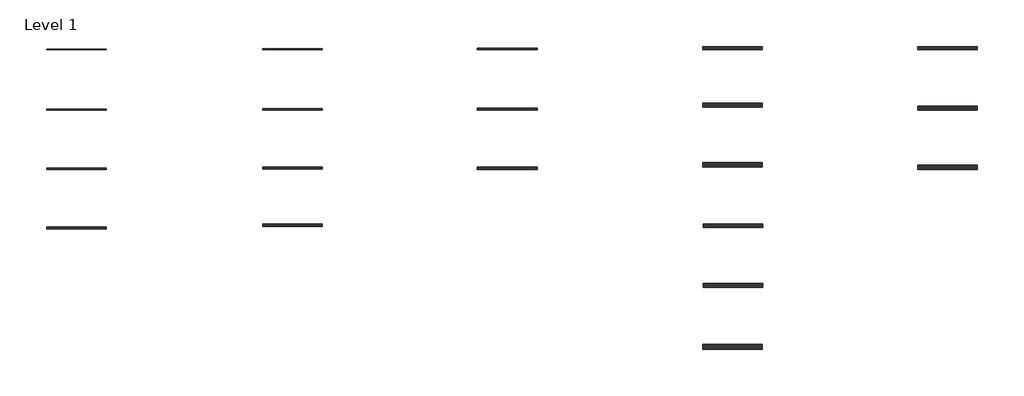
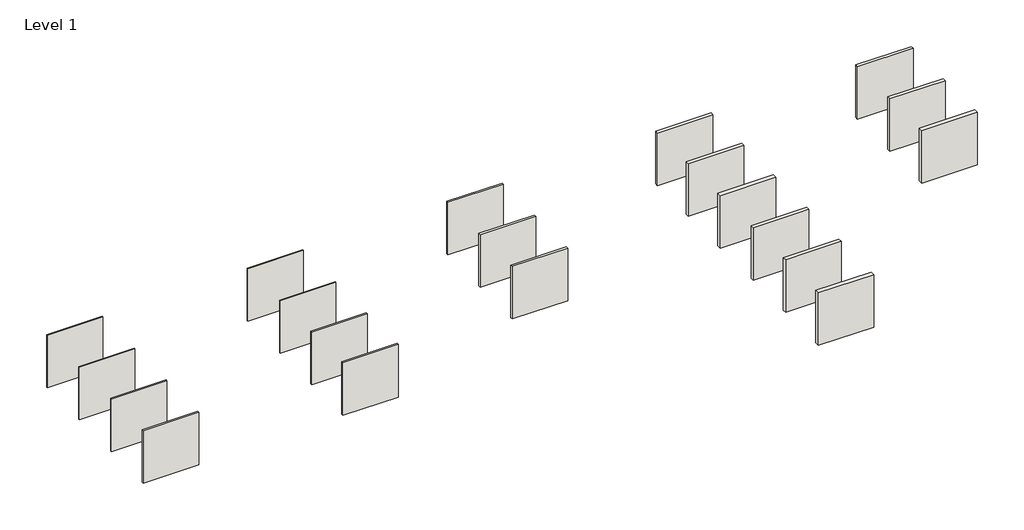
# One storey: 20 walls.
"""IFC4 building model written with IfcOpenShell, lengths in millimetres."""

from ifc_helpers import new_model, si_unit, origin, origin_with_axes, place, context, project, spatial, polyline, outline, extrude, element, save

model = new_model("IFC4")

# Units and contexts
model_context = context("Model", 3, world=origin())
ifc_project = project(units=[si_unit("LENGTHUNIT", "METRE", prefix="MILLI")], contexts=[model_context])

# Site, building, storey
site = spatial("IfcSite", under=ifc_project)
building = spatial("IfcBuilding", under=site)
storey = spatial("IfcBuildingStorey", under=building, Name="Level 1", Elevation=0.0)

# Walls
placement = place(None, origin())
element("IfcWall", 1, ObjectType="VE MR45 600 -/U M45_DK", at=placement, inside=storey, context=model_context, shape_type="SweptSolid", body=[
    extrude(outline(polyline([(-30653.7633244, -13126.0857974), (-34653.7633244, -13126.0857974), (-34653.7633244, -13066.0857955), (-30653.7633244, -13066.0857955), (-30653.7633244, -13126.0857974)])), origin_with_axes(), (0.0, 0.0, 1.0), 4000.0),
])
element("IfcWall", 2, ObjectType="VE MR70 600 -/U M45", at=placement, inside=storey, context=model_context, shape_type="SweptSolid", body=[
    extrude(outline(polyline([(-30653.7633244, -17170.8757704), (-34653.7633244, -17170.8757704), (-34653.7633244, -17085.8757676), (-30653.7633244, -17085.8757676), (-30653.7633244, -17170.8757704)])), origin_with_axes(), (0.0, 0.0, 1.0), 4000.0),
])
element("IfcWall", 3, ObjectType="VE MR95 600 -/U M45", at=placement, inside=storey, context=model_context, shape_type="SweptSolid", body=[
    extrude(outline(polyline([(-30653.7633244, -21167.3036858), (-34653.7633244, -21167.3036858), (-34653.7633244, -21057.3036823), (-30653.7633244, -21057.3036823), (-30653.7633244, -21167.3036858)])), origin_with_axes(), (0.0, 0.0, 1.0), 4000.0),
])
element("IfcWall", 4, ObjectType="VE MR45 600 U/U M45", at=placement, inside=storey, context=model_context, shape_type="SweptSolid", body=[
    extrude(outline(polyline([(-16177.3457459, -13126.0857974), (-20177.3457459, -13126.0857974), (-20177.3457459, -13051.085795), (-16177.3457459, -13051.085795), (-16177.3457459, -13126.0857974)])), origin_with_axes(), (0.0, 0.0, 1.0), 4000.0),
])
element("IfcWall", 5, ObjectType="VE MR70 600 U/U S70", at=placement, inside=storey, context=model_context, shape_type="SweptSolid", body=[
    extrude(outline(polyline([(-16177.3457459, -17170.8757704), (-20177.3457459, -17170.8757704), (-20177.3457459, -17070.8757672), (-16177.3457459, -17070.8757672), (-16177.3457459, -17170.8757704)])), origin_with_axes(), (0.0, 0.0, 1.0), 4000.0),
])
element("IfcWall", 6, ObjectType="VE MR120 600 U/U S95", at=placement, inside=storey, context=model_context, shape_type="SweptSolid", body=[
    extrude(outline(polyline([(-16177.3457459, -24967.3036858), (-20177.3457459, -24967.3036858), (-20177.3457459, -24817.303681), (-16177.3457459, -24817.303681), (-16177.3457459, -24967.3036858)])), origin_with_axes(), (0.0, 0.0, 1.0), 4000.0),
])
element("IfcWall", 7, ObjectType="VE MR70 600 UU/UU M70", at=placement, inside=storey, context=model_context, shape_type="SweptSolid", body=[
    extrude(outline(polyline([(-1783.9335387, -13126.0857974), (-5783.9335387, -13126.0857974), (-5783.9335387, -12996.0857932), (-1783.9335387, -12996.0857932), (-1783.9335387, -13126.0857974)])), origin_with_axes(), (0.0, 0.0, 1.0), 4000.0),
])
element("IfcWall", 8, ObjectType="VE MR95 600 UU/UU M70", at=placement, inside=storey, context=model_context, shape_type="SweptSolid", body=[
    extrude(outline(polyline([(-1783.9335387, -17170.8757704), (-5783.9335387, -17170.8757704), (-5783.9335387, -17015.8757654), (-1783.9335387, -17015.8757654), (-1783.9335387, -17170.8757704)])), origin_with_axes(), (0.0, 0.0, 1.0), 4000.0),
])
element("IfcWall", 9, ObjectType="VE MR120 600 UU/UU M70", at=placement, inside=storey, context=model_context, shape_type="SweptSolid", body=[
    extrude(outline(polyline([(-1783.9335387, -21167.3036858), (-5783.9335387, -21167.3036858), (-5783.9335387, -20987.3036801), (-1783.9335387, -20987.3036801), (-1783.9335387, -21167.3036858)])), origin_with_axes(), (0.0, 0.0, 1.0), 4000.0),
])
element("IfcWall", 10, ObjectType="VD MR70 600 U/U S70", at=placement, inside=storey, context=model_context, shape_type="SweptSolid", body=[
    extrude(outline(polyline([(13316.3600318, -13126.0857974), (9316.3600318, -13126.0857974), (9316.3600318, -12896.08579), (13316.3600318, -12896.08579), (13316.3600318, -13126.0857974)])), origin_with_axes(), (0.0, 0.0, 1.0), 4000.0),
])
element("IfcWall", 11, ObjectType="VD MR70 600 U/U S140", at=placement, inside=storey, context=model_context, shape_type="SweptSolid", body=[
    extrude(outline(polyline([(13347.6453233, -25028.7964974), (9347.6453233, -25028.7964974), (9347.6453233, -24798.7964901), (13347.6453233, -24798.7964901), (13347.6453233, -25028.7964974)])), origin_with_axes(), (0.0, 0.0, 1.0), 4000.0),
])
element("IfcWall", 12, ObjectType="VD MR95 600 U/U S70", at=placement, inside=storey, context=model_context, shape_type="SweptSolid", body=[
    extrude(outline(polyline([(13316.3600318, -16967.3036858), (9316.3600318, -16967.3036858), (9316.3600318, -16707.3036775), (13316.3600318, -16707.3036775), (13316.3600318, -16967.3036858)])), origin_with_axes(), (0.0, 0.0, 1.0), 4000.0),
])
element("IfcWall", 13, ObjectType="VD MR95 600 U/U S140", at=placement, inside=storey, context=model_context, shape_type="SweptSolid", body=[
    extrude(outline(polyline([(13347.6453233, -29065.3058496), (9347.6453233, -29065.3058496), (9347.6453233, -28805.3058412), (13347.6453233, -28805.3058412), (13347.6453233, -29065.3058496)])), origin_with_axes(), (0.0, 0.0, 1.0), 4000.0),
])
element("IfcWall", 14, ObjectType="VD MR120 600 U/U S70", at=placement, inside=storey, context=model_context, shape_type="SweptSolid", body=[
    extrude(outline(polyline([(13316.3600318, -20989.9034191), (9316.3600318, -20989.9034191), (9316.3600318, -20679.9034092), (13316.3600318, -20679.9034092), (13316.3600318, -20989.9034191)])), origin_with_axes(), (0.0, 0.0, 1.0), 4000.0),
])
element("IfcWall", 15, ObjectType="VD MR120 600 U/U S140", at=placement, inside=storey, context=model_context, shape_type="SweptSolid", body=[
    extrude(outline(polyline([(13316.3600318, -33207.2817774), (9316.3600318, -33207.2817774), (9316.3600318, -32897.2817675), (13316.3600318, -32897.2817675), (13316.3600318, -33207.2817774)])), origin_with_axes(), (0.0, 0.0, 1.0), 4000.0),
])
element("IfcWall", 16, ObjectType="VD MR70 600 UU/UU M90", at=placement, inside=storey, context=model_context, shape_type="SweptSolid", body=[
    extrude(outline(polyline([(27734.044697, -13126.0857974), (23734.044697, -13126.0857974), (23734.044697, -12896.08579), (27734.044697, -12896.08579), (27734.044697, -13126.0857974)])), origin_with_axes(), (0.0, 0.0, 1.0), 4000.0),
])
element("IfcWall", 17, ObjectType="VD MR95 600 UU/UU M90", at=placement, inside=storey, context=model_context, shape_type="SweptSolid", body=[
    extrude(outline(polyline([(27734.044697, -17170.8757704), (23734.044697, -17170.8757704), (23734.044697, -16910.875762), (27734.044697, -16910.875762), (27734.044697, -17170.8757704)])), origin_with_axes(), (0.0, 0.0, 1.0), 4000.0),
])
element("IfcWall", 18, ObjectType="VD MR120 600 UU/UU M90", at=placement, inside=storey, context=model_context, shape_type="SweptSolid", body=[
    extrude(outline(polyline([(27734.044697, -21167.3036858), (23734.044697, -21167.3036858), (23734.044697, -20857.3036759), (27734.044697, -20857.3036759), (27734.044697, -21167.3036858)])), origin_with_axes(), (0.0, 0.0, 1.0), 4000.0),
])
element("IfcWall", 19, ObjectType="VE MR120 600 -/U M45", at=placement, inside=storey, context=model_context, shape_type="SweptSolid", body=[
    extrude(outline(polyline([(-30653.7633244, -25128.5764776), (-34653.7633244, -25128.5764776), (-34653.7633244, -24993.5764733), (-30653.7633244, -24993.5764733), (-30653.7633244, -25128.5764776)])), origin_with_axes(), (0.0, 0.0, 1.0), 4000.0),
])
element("IfcWall", 20, ObjectType="VE MR95 600 U/U S95", at=placement, inside=storey, context=model_context, shape_type="SweptSolid", body=[
    extrude(outline(polyline([(-16177.3457459, -21111.4520753), (-20177.3457459, -21111.4520753), (-20177.3457459, -20986.4520713), (-16177.3457459, -20986.4520713), (-16177.3457459, -21111.4520753)])), origin_with_axes(), (0.0, 0.0, 1.0), 4000.0),
])

save(model, "model.ifc")
